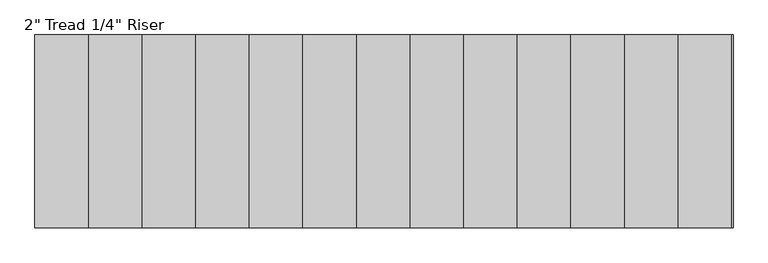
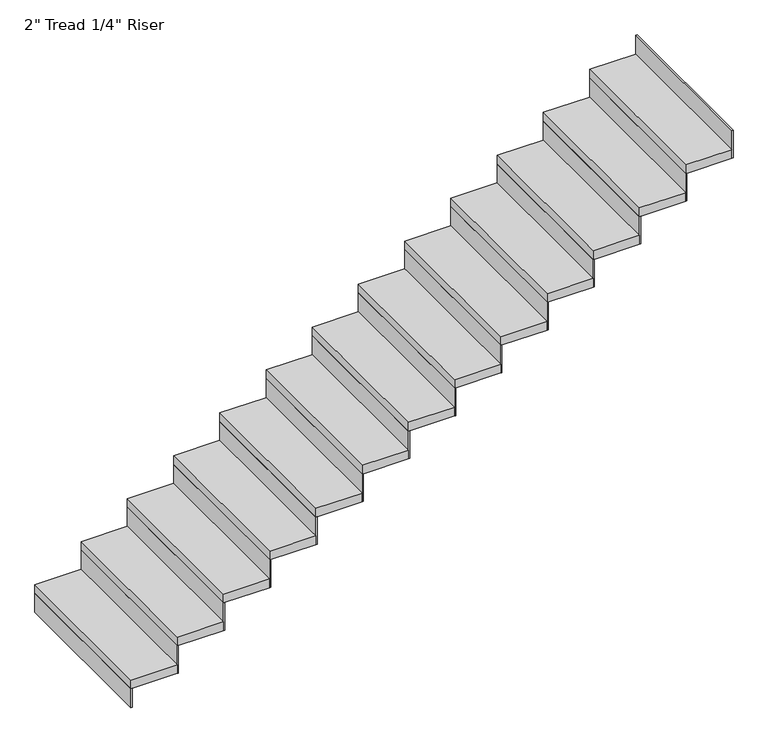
"""IFC4 building model written with IfcOpenShell, lengths in millimetres: stair flight geometry."""

from ifc_helpers import new_model, si_unit, frame, origin, origin_with_axes, place, context, project, spatial, polyline, outline, extrude, source, transform, mapped, element, save


def stair_flight_7d4b4248(model_context):
    return source(origin(), model_context, "Body", "SweptSolid", [
        extrude(outline(polyline([(85035.2707174, -35451.4428514), (85028.9207174, -35451.4428514), (85028.9207174, -34537.0428514), (85035.2707174, -34537.0428514), (85035.2707174, -35451.4428514)])), origin_with_axes(), (0.0, 0.0, 1.0), 109.6210526),
        extrude(outline(polyline([(85282.9207174, -34537.0428514), (85282.9207174, -35451.4428514), (85028.9207174, -35451.4428514), (85028.9207174, -34537.0428514), (85282.9207174, -34537.0428514)])), frame((0.0, 0.0, 109.6210526), z_axis=(0.0, 0.0, 1.0), x_axis=(1.0, 0.0, 0.0)), (0.0, 0.0, 1.0), 50.8),
        extrude(outline(polyline([(85289.2707174, -35451.4428514), (85282.9207174, -35451.4428514), (85282.9207174, -34537.0428514), (85289.2707174, -34537.0428514), (85289.2707174, -35451.4428514)])), frame((0.0, 0.0, 109.6210526), z_axis=(0.0, 0.0, 1.0), x_axis=(1.0, 0.0, 0.0)), (0.0, 0.0, 1.0), 160.4210526),
        extrude(outline(polyline([(85536.9207174, -34537.0428514), (85536.9207174, -35451.4428514), (85282.9207174, -35451.4428514), (85282.9207174, -34537.0428514), (85536.9207174, -34537.0428514)])), frame((0.0, 0.0, 270.0421053), z_axis=(0.0, 0.0, 1.0), x_axis=(1.0, 0.0, 0.0)), (0.0, 0.0, 1.0), 50.8),
        extrude(outline(polyline([(85543.2707174, -35451.4428514), (85536.9207174, -35451.4428514), (85536.9207174, -34537.0428514), (85543.2707174, -34537.0428514), (85543.2707174, -35451.4428514)])), frame((0.0, 0.0, 270.0421053), z_axis=(0.0, 0.0, 1.0), x_axis=(1.0, 0.0, 0.0)), (0.0, 0.0, 1.0), 160.4210526),
        extrude(outline(polyline([(85790.9207174, -34537.0428514), (85790.9207174, -35451.4428514), (85536.9207174, -35451.4428514), (85536.9207174, -34537.0428514), (85790.9207174, -34537.0428514)])), frame((0.0, 0.0, 430.4631579), z_axis=(0.0, 0.0, 1.0), x_axis=(1.0, 0.0, 0.0)), (0.0, 0.0, 1.0), 50.8),
        extrude(outline(polyline([(85797.2707174, -35451.4428514), (85790.9207174, -35451.4428514), (85790.9207174, -34537.0428514), (85797.2707174, -34537.0428514), (85797.2707174, -35451.4428514)])), frame((0.0, 0.0, 430.4631579), z_axis=(0.0, 0.0, 1.0), x_axis=(1.0, 0.0, 0.0)), (0.0, 0.0, 1.0), 160.4210526),
        extrude(outline(polyline([(86044.9207174, -34537.0428514), (86044.9207174, -35451.4428514), (85790.9207174, -35451.4428514), (85790.9207174, -34537.0428514), (86044.9207174, -34537.0428514)])), frame((0.0, 0.0, 590.8842105), z_axis=(0.0, 0.0, 1.0), x_axis=(1.0, 0.0, 0.0)), (0.0, 0.0, 1.0), 50.8),
        extrude(outline(polyline([(86051.2707174, -35451.4428514), (86044.9207174, -35451.4428514), (86044.9207174, -34537.0428514), (86051.2707174, -34537.0428514), (86051.2707174, -35451.4428514)])), frame((0.0, 0.0, 590.8842105), z_axis=(0.0, 0.0, 1.0), x_axis=(1.0, 0.0, 0.0)), (0.0, 0.0, 1.0), 160.4210526),
        extrude(outline(polyline([(86298.9207174, -34537.0428514), (86298.9207174, -35451.4428514), (86044.9207174, -35451.4428514), (86044.9207174, -34537.0428514), (86298.9207174, -34537.0428514)])), frame((0.0, 0.0, 751.3052632), z_axis=(0.0, 0.0, 1.0), x_axis=(1.0, 0.0, 0.0)), (0.0, 0.0, 1.0), 50.8),
        extrude(outline(polyline([(86305.2707174, -35451.4428514), (86298.9207174, -35451.4428514), (86298.9207174, -34537.0428514), (86305.2707174, -34537.0428514), (86305.2707174, -35451.4428514)])), frame((0.0, 0.0, 751.3052632), z_axis=(0.0, 0.0, 1.0), x_axis=(1.0, 0.0, 0.0)), (0.0, 0.0, 1.0), 160.4210526),
        extrude(outline(polyline([(86552.9207174, -34537.0428514), (86552.9207174, -35451.4428514), (86298.9207174, -35451.4428514), (86298.9207174, -34537.0428514), (86552.9207174, -34537.0428514)])), frame((0.0, 0.0, 911.7263158), z_axis=(0.0, 0.0, 1.0), x_axis=(1.0, 0.0, 0.0)), (0.0, 0.0, 1.0), 50.8),
        extrude(outline(polyline([(86559.2707174, -35451.4428514), (86552.9207174, -35451.4428514), (86552.9207174, -34537.0428514), (86559.2707174, -34537.0428514), (86559.2707174, -35451.4428514)])), frame((0.0, 0.0, 911.7263158), z_axis=(0.0, 0.0, 1.0), x_axis=(1.0, 0.0, 0.0)), (0.0, 0.0, 1.0), 160.4210526),
        extrude(outline(polyline([(86806.9207174, -34537.0428514), (86806.9207174, -35451.4428514), (86552.9207174, -35451.4428514), (86552.9207174, -34537.0428514), (86806.9207174, -34537.0428514)])), frame((0.0, 0.0, 1072.1473684), z_axis=(0.0, 0.0, 1.0), x_axis=(1.0, 0.0, 0.0)), (0.0, 0.0, 1.0), 50.8),
        extrude(outline(polyline([(86813.2707174, -35451.4428514), (86806.9207174, -35451.4428514), (86806.9207174, -34537.0428514), (86813.2707174, -34537.0428514), (86813.2707174, -35451.4428514)])), frame((0.0, 0.0, 1072.1473684), z_axis=(0.0, 0.0, 1.0), x_axis=(1.0, 0.0, 0.0)), (0.0, 0.0, 1.0), 160.4210526),
        extrude(outline(polyline([(87060.9207174, -34537.0428514), (87060.9207174, -35451.4428514), (86806.9207174, -35451.4428514), (86806.9207174, -34537.0428514), (87060.9207174, -34537.0428514)])), frame((0.0, 0.0, 1232.5684211), z_axis=(0.0, 0.0, 1.0), x_axis=(1.0, 0.0, 0.0)), (0.0, 0.0, 1.0), 50.8),
        extrude(outline(polyline([(87067.2707174, -35451.4428514), (87060.9207174, -35451.4428514), (87060.9207174, -34537.0428514), (87067.2707174, -34537.0428514), (87067.2707174, -35451.4428514)])), frame((0.0, 0.0, 1232.5684211), z_axis=(0.0, 0.0, 1.0), x_axis=(1.0, 0.0, 0.0)), (0.0, 0.0, 1.0), 160.4210526),
        extrude(outline(polyline([(87314.9207174, -34537.0428514), (87314.9207174, -35451.4428514), (87060.9207174, -35451.4428514), (87060.9207174, -34537.0428514), (87314.9207174, -34537.0428514)])), frame((0.0, 0.0, 1392.9894737), z_axis=(0.0, 0.0, 1.0), x_axis=(1.0, 0.0, 0.0)), (0.0, 0.0, 1.0), 50.8),
        extrude(outline(polyline([(87321.2707174, -35451.4428514), (87314.9207174, -35451.4428514), (87314.9207174, -34537.0428514), (87321.2707174, -34537.0428514), (87321.2707174, -35451.4428514)])), frame((0.0, 0.0, 1392.9894737), z_axis=(0.0, 0.0, 1.0), x_axis=(1.0, 0.0, 0.0)), (0.0, 0.0, 1.0), 160.4210526),
        extrude(outline(polyline([(87568.9207174, -34537.0428514), (87568.9207174, -35451.4428514), (87314.9207174, -35451.4428514), (87314.9207174, -34537.0428514), (87568.9207174, -34537.0428514)])), frame((0.0, 0.0, 1553.4105263), z_axis=(0.0, 0.0, 1.0), x_axis=(1.0, 0.0, 0.0)), (0.0, 0.0, 1.0), 50.8),
        extrude(outline(polyline([(87575.2707174, -35451.4428514), (87568.9207174, -35451.4428514), (87568.9207174, -34537.0428514), (87575.2707174, -34537.0428514), (87575.2707174, -35451.4428514)])), frame((0.0, 0.0, 1553.4105263), z_axis=(0.0, 0.0, 1.0), x_axis=(1.0, 0.0, 0.0)), (0.0, 0.0, 1.0), 160.4210526),
        extrude(outline(polyline([(87822.9207174, -34537.0428514), (87822.9207174, -35451.4428514), (87568.9207174, -35451.4428514), (87568.9207174, -34537.0428514), (87822.9207174, -34537.0428514)])), frame((0.0, 0.0, 1713.8315789), z_axis=(0.0, 0.0, 1.0), x_axis=(1.0, 0.0, 0.0)), (0.0, 0.0, 1.0), 50.8),
        extrude(outline(polyline([(87829.2707174, -35451.4428514), (87822.9207174, -35451.4428514), (87822.9207174, -34537.0428514), (87829.2707174, -34537.0428514), (87829.2707174, -35451.4428514)])), frame((0.0, 0.0, 1713.8315789), z_axis=(0.0, 0.0, 1.0), x_axis=(1.0, 0.0, 0.0)), (0.0, 0.0, 1.0), 160.4210526),
        extrude(outline(polyline([(88076.9207174, -34537.0428514), (88076.9207174, -35451.4428514), (87822.9207174, -35451.4428514), (87822.9207174, -34537.0428514), (88076.9207174, -34537.0428514)])), frame((0.0, 0.0, 1874.2526316), z_axis=(0.0, 0.0, 1.0), x_axis=(1.0, 0.0, 0.0)), (0.0, 0.0, 1.0), 50.8),
        extrude(outline(polyline([(88083.2707174, -35451.4428514), (88076.9207174, -35451.4428514), (88076.9207174, -34537.0428514), (88083.2707174, -34537.0428514), (88083.2707174, -35451.4428514)])), frame((0.0, 0.0, 1874.2526316), z_axis=(0.0, 0.0, 1.0), x_axis=(1.0, 0.0, 0.0)), (0.0, 0.0, 1.0), 160.4210526),
        extrude(outline(polyline([(88337.2707174, -35451.4428514), (88330.9207174, -35451.4428514), (88330.9207174, -34537.0428514), (88337.2707174, -34537.0428514), (88337.2707174, -35451.4428514)])), frame((0.0, 0.0, 2034.6736842), z_axis=(0.0, 0.0, 1.0), x_axis=(1.0, 0.0, 0.0)), (0.0, 0.0, 1.0), 160.4210526),
        extrude(outline(polyline([(88330.9207174, -34537.0428514), (88330.9207174, -35451.4428514), (88076.9207174, -35451.4428514), (88076.9207174, -34537.0428514), (88330.9207174, -34537.0428514)])), frame((0.0, 0.0, 2034.6736842), z_axis=(0.0, 0.0, 1.0), x_axis=(1.0, 0.0, 0.0)), (0.0, 0.0, 1.0), 50.8),
    ])


if __name__ == "__main__":
    model = new_model("IFC4")
    model_context = context("Model", 3, world=origin())
    ifc_project = project(units=[si_unit("LENGTHUNIT", "METRE", prefix="MILLI")], contexts=[model_context])
    site = spatial("IfcSite", under=ifc_project)
    building = spatial("IfcBuilding", under=site)
    placement = place(None, origin())
    stair_flight_shape = stair_flight_7d4b4248(model_context)
    element("IfcStairFlight", 1, ObjectType="2\" Tread 1/4\" Riser", at=placement, inside=building, context=model_context, shape_type="MappedRepresentation", body=[
        mapped(stair_flight_shape, transform((0.0, 0.0, 0.0), x_axis=(1.0, 0.0, 0.0), y_axis=(0.0, 1.0, 0.0), z_axis=(0.0, 0.0, 1.0))),
    ])
    save(model, "model.ifc")
